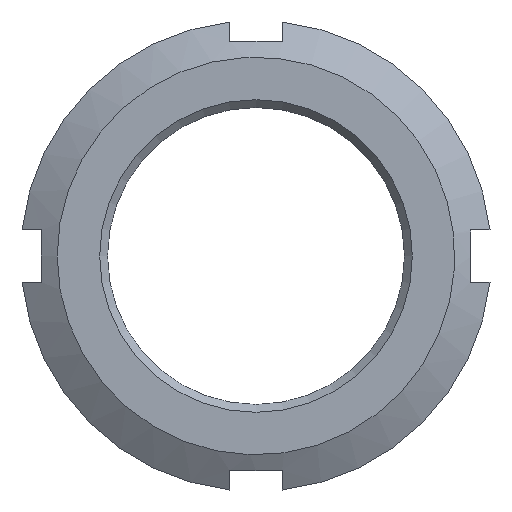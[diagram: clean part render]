
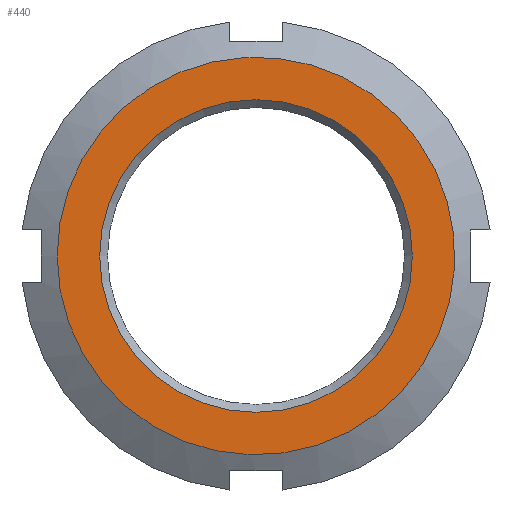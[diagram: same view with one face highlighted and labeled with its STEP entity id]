
A CAD part, left-side view. The second image highlights one B-rep face of the part: STEP entity #440.
In plain terms, the highlighted planar face has unit normal (-1, 0, 0).
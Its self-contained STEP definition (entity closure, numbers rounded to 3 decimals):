
#95=PLANE('',#471);
#116=FACE_BOUND('',#151,.T.);
#122=FACE_OUTER_BOUND('',#150,.T.);
#150=EDGE_LOOP('',(#309));
#151=EDGE_LOOP('',(#310));
#179=CIRCLE('',#468,14.938);
#181=CIRCLE('',#472,19.);
#196=VERTEX_POINT('',#629);
#198=VERTEX_POINT('',#635);
#241=EDGE_CURVE('',#196,#196,#179,.T.);
#243=EDGE_CURVE('',#198,#198,#181,.T.);
#309=ORIENTED_EDGE('',*,*,#243,.F.);
#310=ORIENTED_EDGE('',*,*,#241,.F.);
#440=ADVANCED_FACE('',(#122,#116),#95,.T.);
#468=AXIS2_PLACEMENT_3D('',#630,#515,#516);
#471=AXIS2_PLACEMENT_3D('',#634,#521,#522);
#472=AXIS2_PLACEMENT_3D('',#636,#523,#524);
#515=DIRECTION('center_axis',(-1.,0.,0.));
#516=DIRECTION('ref_axis',(0.,0.,-1.));
#521=DIRECTION('center_axis',(-1.,0.,0.));
#522=DIRECTION('ref_axis',(0.,0.,1.));
#523=DIRECTION('center_axis',(1.,0.,0.));
#524=DIRECTION('ref_axis',(0.,-1.,0.));
#629=CARTESIAN_POINT('',(0.,0.,14.938));
#630=CARTESIAN_POINT('Origin',(0.,0.,0.));
#634=CARTESIAN_POINT('Origin',(0.,11.25,0.));
#635=CARTESIAN_POINT('',(0.,19.,0.));
#636=CARTESIAN_POINT('Origin',(0.,0.,0.));
